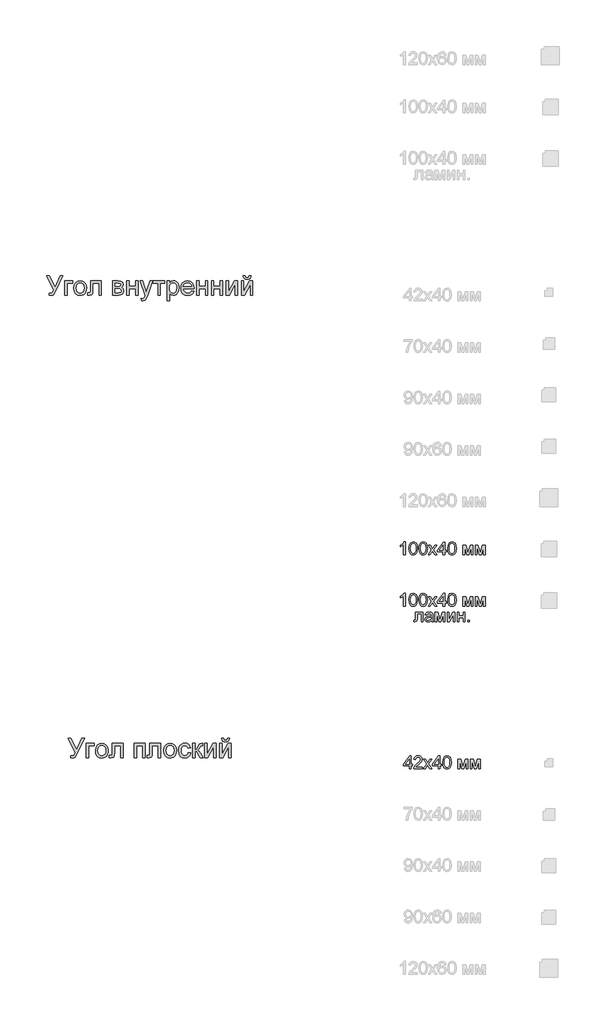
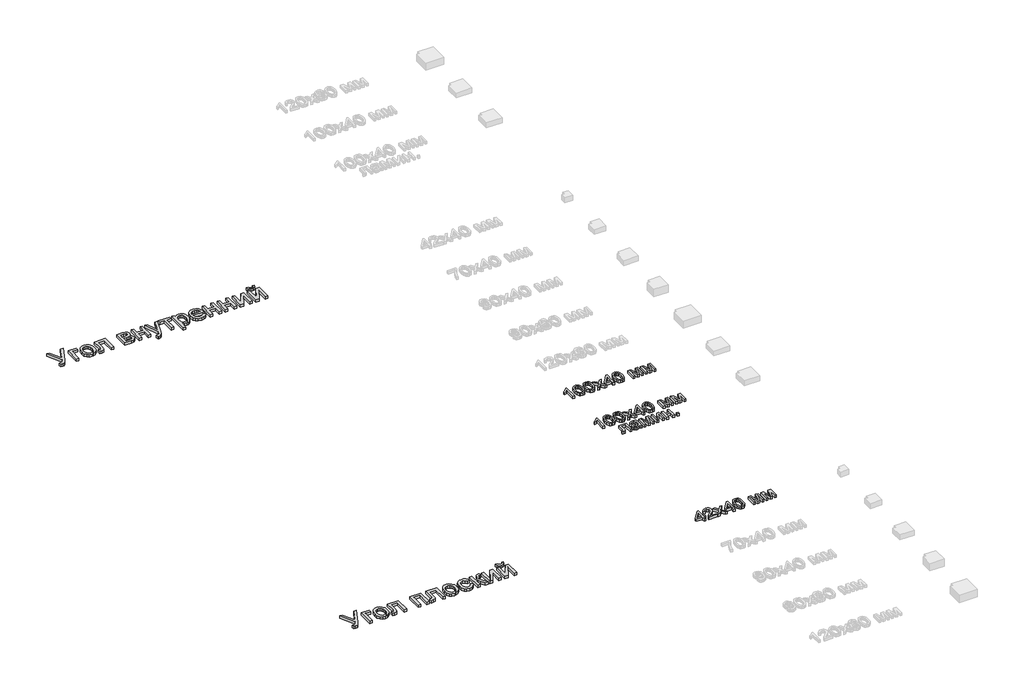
# One storey, part 11 of 21: 5 proxies.
"""IFC4 building model written with IfcOpenShell, lengths in millimetres."""

import ifcopenshell
import ifcopenshell.guid

model = None  # the IFC model being written
_history = None  # IfcOwnerHistory: only IFC2X3 demands one
_inside = {}  # id of a spatial element -> (the spatial element, [elements in it])
_under = {}  # id of a project, library or spatial element -> (it, [spatial elements below it])
_declared = {}  # id of a project -> (the project, [libraries it declares])
_typed = {}  # id of a type object -> (the type object, [elements of that type])
_made_of = {}  # id of a material, layer set ... -> (it, [elements and type objects made of it])


def new_model(schema):
    """Start an empty IFC model of exactly this schema.

    Asked for "IFC4X3", IfcOpenShell would pick the latest addendum, in which some entities
    have other attributes; the version numbers below select the first issue.
    IFC2X3 requires an IfcOwnerHistory on every rooted entity: one is made here for all.
    """
    global model, _history
    if schema == "IFC4X3":
        model = ifcopenshell.file(schema_version=(4, 3, 0, 0))
    else:
        model = ifcopenshell.file(schema=schema)
    _inside.clear()
    _under.clear()
    _declared.clear()
    _typed.clear()
    _made_of.clear()
    _history = None
    if model.schema == "IFC2X3":
        org = make("IfcOrganization", Name="unknown")
        user = make(
            "IfcPersonAndOrganization",
            ThePerson=make("IfcPerson", FamilyName="unknown"),
            TheOrganization=org,
        )
        app = make(
            "IfcApplication",
            ApplicationDeveloper=org,
            Version="unknown",
            ApplicationFullName="unknown",
            ApplicationIdentifier="unknown",
        )
        _history = make(
            "IfcOwnerHistory",
            OwningUser=user,
            OwningApplication=app,
            ChangeAction="ADDED",
            CreationDate=0,
        )
    return model


def make(cls, **values):
    """One entity of the class cls with the attributes given. An attribute that is None is left unset."""
    return model.create_entity(
        cls, **{name: value for name, value in values.items() if value is not None}
    )


def rooted(cls, **values):
    """An entity with a GlobalId (a new one), such as an element, a storey or a relation."""
    return make(cls, GlobalId=ifcopenshell.guid.new(), OwnerHistory=_history, **values)


def si_unit(unit_type, name, prefix=None):
    """IfcSIUnit, for example si_unit("LENGTHUNIT", "METRE", prefix="MILLI")."""
    return make("IfcSIUnit", UnitType=unit_type, Prefix=prefix, Name=name)


def assignment(units):
    """IfcUnitAssignment: the units of a project."""
    return None if units is None else make("IfcUnitAssignment", Units=units)


def point(xyz):
    """IfcCartesianPoint."""
    return None if xyz is None else make("IfcCartesianPoint", Coordinates=xyz)


def direction(xyz):
    """IfcDirection."""
    return None if xyz is None else make("IfcDirection", DirectionRatios=xyz)


def frame(location, z_axis=None, x_axis=None):
    """IfcAxis2Placement3D, a coordinate frame: its origin and axes. An axis left out is left unset."""
    return make(
        "IfcAxis2Placement3D",
        Location=point(location),
        Axis=direction(z_axis),
        RefDirection=direction(x_axis),
    )


def origin():
    """The frame at (0, 0, 0) with its axes left unset."""
    return frame((0.0, 0.0, 0.0))


def origin_with_axes():
    """The frame at (0, 0, 0) with the z axis (0, 0, 1) and the x axis (1, 0, 0) written out."""
    return frame((0.0, 0.0, 0.0), z_axis=(0.0, 0.0, 1.0), x_axis=(1.0, 0.0, 0.0))


def place(relative_to, where):
    """IfcLocalPlacement: puts the frame where relative to a parent placement (None: the world)."""
    return make(
        "IfcLocalPlacement", PlacementRelTo=relative_to, RelativePlacement=where
    )


def context(
    kind, dimensions, precision=None, world=None, true_north=None, identifier=None
):
    """IfcGeometricRepresentationContext, for example the 3D "Model" context."""
    return make(
        "IfcGeometricRepresentationContext",
        ContextIdentifier=identifier,
        ContextType=kind,
        CoordinateSpaceDimension=dimensions,
        Precision=precision,
        WorldCoordinateSystem=world,
        TrueNorth=true_north,
    )


def project(units=None, contexts=None):
    """IfcProject with its units and contexts."""
    return rooted(
        "IfcProject",
        Name="project",
        RepresentationContexts=contexts,
        UnitsInContext=assignment(units),
    )


def spatial(cls, under=None, at=None, **own):
    """A site, building, storey or space (cls), placed at a placement, below another one or the project."""
    s = rooted(cls, ObjectPlacement=at, **own)
    if under is not None:
        _under.setdefault(under.id(), (under, []))[1].append(s)
    return s


def polyline(points):
    """IfcPolyline through the points."""
    return make("IfcPolyline", Points=[point(p) for p in points])


def outline(outer, holes=None, kind="AREA"):
    """IfcArbitraryClosedProfileDef: a profile drawn as a closed curve; with holes, ...WithVoids."""
    if holes is None:
        return make("IfcArbitraryClosedProfileDef", ProfileType=kind, OuterCurve=outer)
    return make(
        "IfcArbitraryProfileDefWithVoids",
        ProfileType=kind,
        OuterCurve=outer,
        InnerCurves=holes,
    )


def extrude(swept, where, along, depth):
    """IfcExtrudedAreaSolid: the profile swept, set in the frame where, extruded along a direction by depth."""
    return make(
        "IfcExtrudedAreaSolid",
        SweptArea=swept,
        Position=where,
        ExtrudedDirection=direction(along),
        Depth=depth,
    )


def shape(context_of_items, identifier, shape_type, items):
    """IfcShapeRepresentation: the items that make up one representation, for example the "Body"."""
    return make(
        "IfcShapeRepresentation",
        ContextOfItems=context_of_items,
        RepresentationIdentifier=identifier,
        RepresentationType=shape_type,
        Items=items,
    )


def made_of(thing, what):
    """Note that an element or type object is made of a material, layer set ...; save() writes the relation."""
    if what is not None:
        _made_of.setdefault(what.id(), (what, []))[1].append(thing)
    return thing


def element(
    cls,
    number,
    at=None,
    inside=None,
    cuts=None,
    type_object=None,
    material=None,
    context=None,
    identifier="Body",
    shape_type=None,
    held_by="IfcProductDefinitionShape",
    body=None,
    shapes=None,
    **own,
):
    """One element of the class cls, such as IfcWall. Its Tag is "e" and its number.

    at: its placement. inside: the storey or other place that contains it. cuts: it is an
    opening in that element (IfcRelVoidsElement). A single representation is given by context,
    identifier, shape_type and body (its items); several are given by shapes. held_by: the class
    of the entity that holds the representations. save() writes the other relations.
    """
    e = rooted(cls, Tag="e%d" % number, ObjectPlacement=at, **own)
    if body is not None:
        shapes = [shape(context, identifier, shape_type, body)]
    if shapes is not None:
        e.Representation = make(held_by, Representations=shapes)
    if inside is not None:
        _inside.setdefault(inside.id(), (inside, []))[1].append(e)
    if cuts is not None:
        rooted(
            "IfcRelVoidsElement", RelatingBuildingElement=cuts, RelatedOpeningElement=e
        )
    if type_object is not None:
        _typed.setdefault(type_object.id(), (type_object, []))[1].append(e)
    return made_of(e, material)


def aggregate(whole, parts):
    """IfcRelAggregates: a whole, such as a stair, and the parts it consists of."""
    return rooted("IfcRelAggregates", RelatingObject=whole, RelatedObjects=parts)


def save(model, path):
    """Write the relations noted so far, then the file.

    IfcRelAggregates (storeys below a building ...), IfcRelContainedInSpatialStructure (elements
    in a storey), IfcRelDefinesByType, IfcRelAssociatesMaterial and IfcRelDeclares: one each for
    every whole, place, type object, material and project.
    """
    for whole, parts in _under.values():
        aggregate(whole, parts)
    for where, things in _inside.values():
        rooted(
            "IfcRelContainedInSpatialStructure",
            RelatedElements=things,
            RelatingStructure=where,
        )
    for kind, things in _typed.values():
        rooted("IfcRelDefinesByType", RelatedObjects=things, RelatingType=kind)
    for what, things in _made_of.values():
        rooted("IfcRelAssociatesMaterial", RelatedObjects=things, RelatingMaterial=what)
    for by, libraries in _declared.values():
        rooted("IfcRelDeclares", RelatingContext=by, RelatedDefinitions=libraries)
    model.write(path)


model = new_model("IFC4")

# Units and contexts
model_context = context("Model", 3, world=origin())
ifc_project = project(units=[si_unit("LENGTHUNIT", "METRE", prefix="MILLI")], contexts=[model_context])

# Site, building, storey
site = spatial("IfcSite", under=ifc_project)
building = spatial("IfcBuilding", under=site)
storey = spatial("IfcBuildingStorey", under=building, Name="Этаж 01", Elevation=0.0)

# Proxies
placement = place(None, origin())
element("IfcBuildingElementProxy", 1, Name="150 мм Arial", ObjectType="150 мм Arial", at=placement, inside=storey, context=model_context, shape_type="SweptSolid", body=[
    extrude(outline(polyline([(19964.3425456, -12002.6104933), (19985.2014547, -12002.6104933), (20030.2669992, -12091.8586654), (20070.807595, -12002.6104933), (20091.4825632, -12002.6104933), (20034.2769129, -12120.001638), (20018.7155045, -12148.8435864), (20011.3302735, -12153.9479491), (20001.3146861, -12155.6494033), (19984.3553262, -12153.2949586), (19984.3553262, -12136.8138452), (19999.1809706, -12136.8138452), (20010.1806422, -12132.6199904), (20020.3709735, -12113.5269149), (19964.3425456, -12002.6104933)])), origin_with_axes(), (0.0, 0.0, 1.0), 20.0),
    extrude(outline(polyline([(20106.7864542, -12042.6360544), (20168.0020181, -12042.6360544), (20168.0020181, -12061.4716126), (20125.6220123, -12061.4716126), (20125.6220123, -12153.2949586), (20106.7864542, -12153.2949586), (20106.7864542, -12042.6360544)])), origin_with_axes(), (0.0, 0.0, 1.0), 20.0),
    extrude(outline(polyline([(20177.4197972, -12097.9655065), (20181.4940903, -12071.2848648), (20193.7169696, -12052.5320801), (20208.8185255, -12043.3442272), (20226.8999256, -12040.2816096), (20246.6873784, -12044.0110134), (20262.4925086, -12055.1992245), (20272.8529853, -12072.9633264), (20276.3064775, -12096.4204021), (20274.7797672, -12115.4490983), (20270.1996364, -12129.9344519), (20262.6994422, -12140.7823722), (20252.4125419, -12148.8987687), (20240.1942612, -12153.9617447), (20226.8999256, -12155.6494033), (20206.8733495, -12151.9337952), (20191.0866133, -12140.7869707), (20180.8365013, -12122.6503884), (20177.4197972, -12097.9655065)]), holes=[polyline([(20196.2553554, -12097.9287183), (20198.4350562, -12114.9754502), (20204.9741587, -12127.1201546), (20214.815002, -12134.3904225), (20226.8999256, -12136.8138452), (20238.9296668, -12134.376627), (20248.7521161, -12127.0649723), (20255.2912186, -12114.7593196), (20257.4709194, -12097.3401071), (20255.277423, -12080.7900158), (20248.6969338, -12068.8108584), (20238.8606889, -12061.5405904), (20226.8999256, -12059.1171678), (20214.815002, -12061.5313934), (20204.9741587, -12068.7740702), (20198.4350562, -12080.8911834), (20196.2553554, -12097.9287183)])]), origin_with_axes(), (0.0, 0.0, 1.0), 20.0),
    extrude(outline(polyline([(20306.9142595, -12042.6360544), (20391.6742712, -12042.6360544), (20391.6742712, -12153.184594), (20372.8387131, -12153.184594), (20372.8387131, -12061.4716126), (20325.7498177, -12061.4716126), (20325.7498177, -12114.2626789), (20324.4806248, -12138.6164669), (20317.509261, -12148.8987687), (20301.0281476, -12153.2949586), (20285.7242566, -12152.3384654), (20285.7242566, -12134.4594004), (20294.1487543, -12134.4594004), (20302.6652225, -12133.3005721), (20306.0681309, -12129.6217522), (20306.9142595, -12113.1958211), (20306.9142595, -12042.6360544)])), origin_with_axes(), (0.0, 0.0, 1.0), 20.0),
    extrude(outline(polyline([(20478.7887277, -12042.6360544), (20520.2858167, -12042.6360544), (20543.0393181, -12045.1560461), (20555.8416116, -12054.3898841), (20561.1942946, -12070.4847214), (20557.956933, -12083.5629264), (20548.2080602, -12092.8887349), (20560.8632008, -12103.0974603), (20565.9031841, -12120.8477666), (20562.7118078, -12135.2043614), (20555.1242417, -12145.3119193), (20543.1128945, -12151.2991987), (20526.6501752, -12153.2949586), (20478.7887277, -12153.2949586), (20478.7887277, -12042.6360544)]), holes=[polyline([(20497.6242858, -12134.4594004), (20520.7272751, -12134.4594004), (20541.2183023, -12131.0564919), (20545.4581423, -12126.4165803), (20547.067626, -12119.3026622), (20543.8486585, -12110.234371), (20535.460949, -12104.9552644), (20518.8878651, -12103.8516184), (20497.6242858, -12103.8516184), (20497.6242858, -12134.4594004)]), polyline([(20497.6242858, -12085.0160602), (20516.2391148, -12085.0160602), (20531.5981881, -12084.0595671), (20539.0661926, -12080.2335943), (20542.3587364, -12073.3174128), (20540.9147996, -12067.6980153), (20536.5829891, -12064.0835747), (20516.827726, -12061.4716126), (20497.6242858, -12061.4716126), (20497.6242858, -12085.0160602)])]), origin_with_axes(), (0.0, 0.0, 1.0), 20.0),
    extrude(outline(polyline([(20589.4476318, -12042.6360544), (20608.28319, -12042.6360544), (20608.28319, -12085.0160602), (20657.7265301, -12085.0160602), (20657.7265301, -12042.6360544), (20676.5620883, -12042.6360544), (20676.5620883, -12153.2949586), (20657.7265301, -12153.2949586), (20657.7265301, -12103.8516184), (20608.28319, -12103.8516184), (20608.28319, -12153.2949586), (20589.4476318, -12153.2949586), (20589.4476318, -12042.6360544)])), origin_with_axes(), (0.0, 0.0, 1.0), 20.0),
    extrude(outline(polyline([(20704.8154255, -12195.6749644), (20702.4609807, -12177.538382), (20712.0259126, -12179.193851), (20720.9654451, -12177.1153177), (20726.4468868, -12171.3211763), (20731.5972348, -12157.4520251), (20733.0687627, -12152.8902884), (20693.0432017, -12042.6360544), (20712.9088294, -12042.6360544), (20734.1356205, -12104.0723476), (20741.5300486, -12128.6468649), (20748.9244767, -12106.9418272), (20770.739879, -12042.6360544), (20790.458354, -12042.6360544), (20751.9411091, -12155.9437089), (20741.9347188, -12180.5182262), (20731.0086236, -12193.7987662), (20716.330132, -12198.0294092), (20704.8154255, -12195.6749644)])), origin_with_axes(), (0.0, 0.0, 1.0), 20.0),
    extrude(outline(polyline([(20796.6387715, -12042.6360544), (20886.1076727, -12042.6360544), (20886.1076727, -12061.4716126), (20850.7910012, -12061.4716126), (20850.7910012, -12153.2949586), (20831.955443, -12153.2949586), (20831.955443, -12061.4716126), (20796.6387715, -12061.4716126), (20796.6387715, -12042.6360544)])), origin_with_axes(), (0.0, 0.0, 1.0), 20.0),
    extrude(outline(polyline([(20902.5887861, -12195.6749644), (20902.5887861, -12042.6360544), (20921.4243443, -12042.6360544), (20921.4243443, -12061.1037306), (20934.4473669, -12045.4871399), (20952.0321263, -12040.2816096), (20964.7700404, -12042.1026255), (20975.9076678, -12047.5656731), (20984.9759589, -12056.3396587), (20991.5058644, -12068.0934885), (20996.7665769, -12097.1193779), (20995.2812533, -12113.2280108), (20990.8252827, -12127.6351894), (20983.5412192, -12139.6097483), (20973.5716171, -12148.4205221), (20961.9603416, -12153.842183), (20949.7512579, -12155.6494033), (20933.362115, -12150.8117551), (20921.4243443, -12138.5796787), (20921.4243443, -12195.6749644), (20902.5887861, -12195.6749644)]), holes=[polyline([(20921.4243443, -12098.8484233), (20923.4614908, -12115.7342068), (20929.5729305, -12127.5432189), (20938.5906379, -12134.4961886), (20949.3465877, -12136.8138452), (20960.2772815, -12134.4134152), (20969.5249151, -12127.2121251), (20975.8294928, -12114.9708517), (20977.9310187, -12097.4504717), (20975.8800766, -12080.6566586), (20969.7272502, -12068.6820997), (20960.7233384, -12061.5084008), (20950.1191399, -12059.1171678), (20939.4735547, -12061.6601521), (20930.1247535, -12069.289105), (20923.5994466, -12081.7649031), (20921.4243443, -12098.8484233)])]), origin_with_axes(), (0.0, 0.0, 1.0), 20.0),
    extrude(outline(polyline([(21095.432528, -12120.3327318), (21113.9002041, -12122.6871766), (21107.2461386, -12136.602313), (21096.6281445, -12147.0041764), (21082.2853452, -12153.4880966), (21064.456864, -12155.6494033), (21042.3563531, -12151.9199996), (21025.3510079, -12140.7317884), (21014.5076861, -12122.8113367), (21010.8932455, -12098.8852115), (21014.5444743, -12074.1543443), (21025.4981607, -12055.659077), (21042.2735797, -12044.1259765), (21063.3900062, -12040.2816096), (21083.8488437, -12044.1167794), (21100.1965998, -12055.6222888), (21110.9157615, -12074.0807679), (21114.4888153, -12098.7748469), (21114.3784507, -12103.8516184), (21029.7288037, -12103.8516184), (21032.9891578, -12117.9506959), (21040.5629284, -12128.3157711), (21051.4936222, -12134.6893266), (21064.824746, -12136.8138452), (21083.2924221, -12132.8775078), (21095.432528, -12120.3327318)]), holes=[polyline([(21029.7288037, -12085.0160602), (21095.6532572, -12085.0160602), (21093.1056744, -12075.0648523), (21088.1116763, -12067.9463357), (21077.1303987, -12061.3244598), (21063.3164298, -12059.1171678), (21050.6199025, -12060.8784028), (21040.12147, -12066.162108), (21032.8236109, -12074.3980662), (21029.7288037, -12085.0160602)])]), origin_with_axes(), (0.0, 0.0, 1.0), 20.0),
    extrude(outline(polyline([(21133.3243735, -12042.6360544), (21152.1599316, -12042.6360544), (21152.1599316, -12085.0160602), (21201.6032718, -12085.0160602), (21201.6032718, -12042.6360544), (21220.43883, -12042.6360544), (21220.43883, -12153.2949586), (21201.6032718, -12153.2949586), (21201.6032718, -12103.8516184), (21152.1599316, -12103.8516184), (21152.1599316, -12153.2949586), (21133.3243735, -12153.2949586), (21133.3243735, -12042.6360544)])), origin_with_axes(), (0.0, 0.0, 1.0), 20.0),
    extrude(outline(polyline([(21248.6921672, -12042.6360544), (21267.5277253, -12042.6360544), (21267.5277253, -12085.0160602), (21316.9710655, -12085.0160602), (21316.9710655, -12042.6360544), (21335.8066236, -12042.6360544), (21335.8066236, -12153.2949586), (21316.9710655, -12153.2949586), (21316.9710655, -12103.8516184), (21267.5277253, -12103.8516184), (21267.5277253, -12153.2949586), (21248.6921672, -12153.2949586), (21248.6921672, -12042.6360544)])), origin_with_axes(), (0.0, 0.0, 1.0), 20.0),
    extrude(outline(polyline([(21364.0599609, -12042.6360544), (21382.895519, -12042.6360544), (21382.895519, -12127.0281841), (21429.175074, -12042.6360544), (21453.5288621, -12042.6360544), (21453.5288621, -12153.2949586), (21434.6933039, -12153.2949586), (21434.6933039, -12069.4178637), (21388.7080545, -12153.2949586), (21364.0599609, -12153.2949586), (21364.0599609, -12042.6360544)])), origin_with_axes(), (0.0, 0.0, 1.0), 20.0),
    extrude(outline(polyline([(21481.7821993, -12042.6360544), (21500.6177575, -12042.6360544), (21500.6177575, -12127.0281841), (21546.8973125, -12042.6360544), (21571.2511006, -12042.6360544), (21571.2511006, -12153.2949586), (21552.4155424, -12153.2949586), (21552.4155424, -12069.4178637), (21506.430293, -12153.2949586), (21481.7821993, -12153.2949586), (21481.7821993, -12042.6360544)])), origin_with_axes(), (0.0, 0.0, 1.0), 20.0),
    extrude(outline(polyline([(21542.9977633, -12002.6104933), (21557.1244319, -12002.6104933), (21554.084807, -12014.6724242), (21547.9825644, -12023.561373), (21539.0936156, -12029.0382162), (21527.6938723, -12030.8638306), (21515.3238402, -12029.0520117), (21505.7313172, -12023.6165553), (21499.1738206, -12014.7414021), (21495.9088679, -12002.6104933), (21510.0355366, -12002.6104933), (21515.3330373, -12013.2238889), (21526.0016151, -12016.7371619), (21537.7002626, -12013.3342535), (21542.9977633, -12002.6104933)])), origin_with_axes(), (0.0, 0.0, 1.0), 20.0),
])
element("IfcBuildingElementProxy", 2, Name="150 мм Arial", ObjectType="150 мм Arial", at=placement, inside=storey, context=model_context, shape_type="SweptSolid", body=[
    extrude(outline(polyline([(20132.6853466, -15602.6104933), (20153.5442557, -15602.6104933), (20198.6098001, -15691.8586654), (20239.150396, -15602.6104933), (20259.8253641, -15602.6104933), (20202.6197139, -15720.001638), (20187.0583055, -15748.8435864), (20179.6730744, -15753.9479491), (20169.6574871, -15755.6494033), (20152.6981271, -15753.2949586), (20152.6981271, -15736.8138452), (20167.5237716, -15736.8138452), (20178.5234432, -15732.6199904), (20188.7137745, -15713.5269149), (20132.6853466, -15602.6104933)])), origin_with_axes(), (0.0, 0.0, 1.0), 20.0),
    extrude(outline(polyline([(20275.1292551, -15642.6360544), (20336.3448191, -15642.6360544), (20336.3448191, -15661.4716126), (20293.9648133, -15661.4716126), (20293.9648133, -15753.2949586), (20275.1292551, -15753.2949586), (20275.1292551, -15642.6360544)])), origin_with_axes(), (0.0, 0.0, 1.0), 20.0),
    extrude(outline(polyline([(20345.7625982, -15697.9655065), (20349.8368913, -15671.2848648), (20362.0597706, -15652.5320801), (20377.1613265, -15643.3442272), (20395.2427266, -15640.2816096), (20415.0301794, -15644.0110134), (20430.8353096, -15655.1992245), (20441.1957863, -15672.9633264), (20444.6492785, -15696.4204021), (20443.1225682, -15715.4490983), (20438.5424374, -15729.9344519), (20431.0422432, -15740.7823722), (20420.7553429, -15748.8987687), (20408.5370622, -15753.9617447), (20395.2427266, -15755.6494033), (20375.2161505, -15751.9337952), (20359.4294143, -15740.7869707), (20349.1793022, -15722.6503884), (20345.7625982, -15697.9655065)]), holes=[polyline([(20364.5981564, -15697.9287183), (20366.7778572, -15714.9754502), (20373.3169597, -15727.1201546), (20383.157803, -15734.3904225), (20395.2427266, -15736.8138452), (20407.2724678, -15734.376627), (20417.0949171, -15727.0649723), (20423.6340195, -15714.7593196), (20425.8137204, -15697.3401071), (20423.620224, -15680.7900158), (20417.0397348, -15668.8108584), (20407.2034899, -15661.5405904), (20395.2427266, -15659.1171678), (20383.157803, -15661.5313934), (20373.3169597, -15668.7740702), (20366.7778572, -15680.8911834), (20364.5981564, -15697.9287183)])]), origin_with_axes(), (0.0, 0.0, 1.0), 20.0),
    extrude(outline(polyline([(20475.2570605, -15642.6360544), (20560.0170722, -15642.6360544), (20560.0170722, -15753.184594), (20541.1815141, -15753.184594), (20541.1815141, -15661.4716126), (20494.0926187, -15661.4716126), (20494.0926187, -15714.2626789), (20492.8234258, -15738.6164669), (20485.852062, -15748.8987687), (20469.3709486, -15753.2949586), (20454.0670576, -15752.3384654), (20454.0670576, -15734.4594004), (20462.4915553, -15734.4594004), (20471.0080235, -15733.3005721), (20474.4109319, -15729.6217522), (20475.2570605, -15713.1958211), (20475.2570605, -15642.6360544)])), origin_with_axes(), (0.0, 0.0, 1.0), 20.0),
    extrude(outline(polyline([(20647.1315287, -15642.6360544), (20731.8915404, -15642.6360544), (20731.8915404, -15753.2949586), (20713.0559822, -15753.2949586), (20713.0559822, -15661.4716126), (20665.9670868, -15661.4716126), (20665.9670868, -15753.2949586), (20647.1315287, -15753.2949586), (20647.1315287, -15642.6360544)])), origin_with_axes(), (0.0, 0.0, 1.0), 20.0),
    extrude(outline(polyline([(20769.5626567, -15642.6360544), (20854.3226684, -15642.6360544), (20854.3226684, -15753.184594), (20835.4871102, -15753.184594), (20835.4871102, -15661.4716126), (20788.3982148, -15661.4716126), (20788.3982148, -15714.2626789), (20787.1290219, -15738.6164669), (20780.1576581, -15748.8987687), (20763.6765447, -15753.2949586), (20748.3726537, -15752.3384654), (20748.3726537, -15734.4594004), (20756.7971514, -15734.4594004), (20765.3136196, -15733.3005721), (20768.7165281, -15729.6217522), (20769.5626567, -15713.1958211), (20769.5626567, -15642.6360544)])), origin_with_axes(), (0.0, 0.0, 1.0), 20.0),
    extrude(outline(polyline([(20877.867116, -15697.9655065), (20881.9414091, -15671.2848648), (20894.1642884, -15652.5320801), (20909.2658443, -15643.3442272), (20927.3472444, -15640.2816096), (20947.1346972, -15644.0110134), (20962.9398274, -15655.1992245), (20973.3003041, -15672.9633264), (20976.7537963, -15696.4204021), (20975.2270861, -15715.4490983), (20970.6469552, -15729.9344519), (20963.146761, -15740.7823722), (20952.8598608, -15748.8987687), (20940.64158, -15753.9617447), (20927.3472444, -15755.6494033), (20907.3206683, -15751.9337952), (20891.5339322, -15740.7869707), (20881.2838201, -15722.6503884), (20877.867116, -15697.9655065)]), holes=[polyline([(20896.7026742, -15697.9287183), (20898.882375, -15714.9754502), (20905.4214775, -15727.1201546), (20915.2623209, -15734.3904225), (20927.3472444, -15736.8138452), (20939.3769856, -15734.376627), (20949.1994349, -15727.0649723), (20955.7385374, -15714.7593196), (20957.9182382, -15697.3401071), (20955.7247418, -15680.7900158), (20949.1442526, -15668.8108584), (20939.3080078, -15661.5405904), (20927.3472444, -15659.1171678), (20915.2623209, -15661.5313934), (20905.4214775, -15668.7740702), (20898.882375, -15680.8911834), (20896.7026742, -15697.9287183)])]), origin_with_axes(), (0.0, 0.0, 1.0), 20.0),
    extrude(outline(polyline([(21068.5771423, -15713.2693975), (21087.4127005, -15715.6238422), (21082.161185, -15732.3762686), (21072.2927505, -15745.0360078), (21058.736299, -15752.9960544), (21042.4207325, -15755.6494033), (21022.3849593, -15751.9475907), (21006.7177849, -15740.842153), (20996.6056285, -15722.8205338), (20993.2349097, -15698.3701767), (20994.674248, -15681.6085533), (20998.992263, -15667.081813), (21006.2579324, -15655.3509759), (21016.5402341, -15646.9770619), (21028.8412883, -15641.9554727), (21042.1632151, -15640.2816096), (21058.0787099, -15642.5808721), (21070.8028284, -15649.4786595), (21079.9309004, -15660.6070899), (21085.0582557, -15675.5982812), (21066.2226976, -15677.9527259), (21057.4855002, -15663.8444514), (21042.3103679, -15659.1171678), (21030.1380724, -15661.4440214), (21020.4765715, -15668.4245823), (21014.1719938, -15680.4359294), (21012.0704679, -15697.8551419), (21014.1260085, -15715.5088791), (21020.2926305, -15727.561613), (21029.7793874, -15734.5007871), (21041.7953331, -15736.8138452), (21051.5488045, -15735.3699083), (21059.5456394, -15731.0380978), (21065.3627734, -15723.7080491), (21068.5771423, -15713.2693975)])), origin_with_axes(), (0.0, 0.0, 1.0), 20.0),
    extrude(outline(polyline([(21103.8938139, -15642.6360544), (21122.729372, -15642.6360544), (21122.729372, -15689.7249498), (21135.3477245, -15686.3404354), (21145.6852085, -15666.6219605), (21154.2752531, -15649.6074182), (21161.8536222, -15644.0707942), (21175.6308029, -15642.6360544), (21179.2360465, -15642.6360544), (21179.2360465, -15661.5819772), (21174.159275, -15661.4716126), (21164.9622251, -15663.4581753), (21158.487502, -15675.8557986), (21150.8907388, -15689.2650973), (21140.240555, -15695.8317909), (21152.1231434, -15703.1618397), (21163.7850027, -15718.6036864), (21183.944936, -15753.2949586), (21162.5342039, -15753.2949586), (21142.7789408, -15719.3394504), (21132.8461269, -15704.9736585), (21122.729372, -15701.4971736), (21122.729372, -15753.2949586), (21103.8938139, -15753.2949586), (21103.8938139, -15642.6360544)])), origin_with_axes(), (0.0, 0.0, 1.0), 20.0),
    extrude(outline(polyline([(21195.7171599, -15642.6360544), (21214.552718, -15642.6360544), (21214.552718, -15727.0281841), (21260.832273, -15642.6360544), (21285.1860611, -15642.6360544), (21285.1860611, -15753.2949586), (21266.3505029, -15753.2949586), (21266.3505029, -15669.4178637), (21220.3652536, -15753.2949586), (21195.7171599, -15753.2949586), (21195.7171599, -15642.6360544)])), origin_with_axes(), (0.0, 0.0, 1.0), 20.0),
    extrude(outline(polyline([(21313.4393983, -15642.6360544), (21332.2749565, -15642.6360544), (21332.2749565, -15727.0281841), (21378.5545115, -15642.6360544), (21402.9082996, -15642.6360544), (21402.9082996, -15753.2949586), (21384.0727414, -15753.2949586), (21384.0727414, -15669.4178637), (21338.087492, -15753.2949586), (21313.4393983, -15753.2949586), (21313.4393983, -15642.6360544)])), origin_with_axes(), (0.0, 0.0, 1.0), 20.0),
    extrude(outline(polyline([(21374.6549623, -15602.6104933), (21388.7816309, -15602.6104933), (21385.742006, -15614.6724242), (21379.6397634, -15623.561373), (21370.7508147, -15629.0382162), (21359.3510713, -15630.8638306), (21346.9810392, -15629.0520117), (21337.3885162, -15623.6165553), (21330.8310197, -15614.7414021), (21327.5660669, -15602.6104933), (21341.6927356, -15602.6104933), (21346.9902363, -15613.2238889), (21357.6588142, -15616.7371619), (21369.3574616, -15613.3342535), (21374.6549623, -15602.6104933)])), origin_with_axes(), (0.0, 0.0, 1.0), 20.0),
])
element("IfcBuildingElementProxy", 3, Name="100 мм Arial", ObjectType="100 мм Arial", at=placement, inside=storey, context=model_context, shape_type="SweptSolid", body=[
    extrude(outline(polyline([(22758.4927799, -14173.4621169), (22745.9357412, -14173.4621169), (22745.9357412, -14095.1768283), (22734.04089, -14103.6503769), (22720.8216636, -14109.99021), (22720.8216636, -14098.1198843), (22739.2280261, -14086.3721859), (22750.399376, -14073.0058067), (22758.4927799, -14073.0058067), (22758.4927799, -14173.4621169)])), origin_with_axes(), (0.0, 0.0, 1.0), 20.0),
    extrude(outline(polyline([(22788.315747, -14124.0433022), (22792.0068297, -14095.1400401), (22802.9697131, -14078.4749857), (22821.2779738, -14073.0058067), (22835.9442026, -14076.2431683), (22846.0732202, -14085.5751082), (22851.9593322, -14100.4375408), (22854.2402005, -14124.0433022), (22850.585906, -14152.8239369), (22839.6598108, -14169.5257795), (22831.4284511, -14173.6552549), (22821.2779738, -14175.0317467), (22808.2304257, -14172.6405137), (22798.3221373, -14165.4668148), (22790.8173446, -14148.476798), (22788.315747, -14124.0433022)]), holes=[polyline([(22800.8727858, -14124.0187767), (22802.3443137, -14143.7709742), (22806.7588977, -14155.2029072), (22813.3317227, -14160.6567578), (22821.2779738, -14162.4747079), (22829.2242249, -14160.6506264), (22835.7970498, -14155.1783817), (22840.2116338, -14143.7403173), (22841.6831618, -14124.0187767), (22840.2606847, -14104.7111033), (22835.9932536, -14093.1902655), (22829.4326913, -14087.4697005), (22821.130821, -14085.5628455), (22813.270409, -14087.2428399), (22806.9551014, -14092.2828233), (22802.3933647, -14104.521031), (22800.8727858, -14124.0187767)])]), origin_with_axes(), (0.0, 0.0, 1.0), 20.0),
    extrude(outline(polyline([(22865.2276095, -14124.0433022), (22868.9186921, -14095.1400401), (22879.8815756, -14078.4749857), (22898.1898362, -14073.0058067), (22912.8560651, -14076.2431683), (22922.9850827, -14085.5751082), (22928.8711946, -14100.4375408), (22931.152063, -14124.0433022), (22927.4977685, -14152.8239369), (22916.5716732, -14169.5257795), (22908.3403136, -14173.6552549), (22898.1898362, -14175.0317467), (22885.1422881, -14172.6405137), (22875.2339997, -14165.4668148), (22867.729207, -14148.476798), (22865.2276095, -14124.0433022)]), holes=[polyline([(22877.7846482, -14124.0187767), (22879.2561762, -14143.7709742), (22883.6707601, -14155.2029072), (22890.2435851, -14160.6567578), (22898.1898362, -14162.4747079), (22906.1360873, -14160.6506264), (22912.7089123, -14155.1783817), (22917.1234962, -14143.7403173), (22918.5950242, -14124.0187767), (22917.1725472, -14104.7111033), (22912.905116, -14093.1902655), (22906.3445538, -14087.4697005), (22898.0426834, -14085.5628455), (22890.1822715, -14087.2428399), (22883.8669639, -14092.2828233), (22879.3052271, -14104.521031), (22877.7846482, -14124.0187767)])]), origin_with_axes(), (0.0, 0.0, 1.0), 20.0),
    extrude(outline(polyline([(22937.4305824, -14173.4621169), (22964.2614426, -14136.3796118), (22939.0002122, -14099.6895141), (22954.1078995, -14099.6895141), (22966.2970563, -14117.3478499), (22971.9869645, -14125.6865084), (22976.9165832, -14118.8684288), (22990.7979971, -14099.6895141), (23005.9056844, -14099.6895141), (22979.3691298, -14136.3796118), (23004.9246658, -14173.4621169), (22989.8169785, -14173.4621169), (22974.4395111, -14151.168468), (22971.6190825, -14147.0972405), (22952.5382696, -14173.4621169), (22937.4305824, -14173.4621169)])), origin_with_axes(), (0.0, 0.0, 1.0), 20.0),
    extrude(outline(polyline([(23053.583191, -14173.4621169), (23053.583191, -14149.9176692), (23008.0639254, -14149.9176692), (23008.0639254, -14137.3606304), (23056.7224507, -14074.5754366), (23066.1402298, -14074.5754366), (23066.1402298, -14137.3606304), (23078.6972685, -14137.3606304), (23078.6972685, -14149.9176692), (23066.1402298, -14149.9176692), (23066.1402298, -14173.4621169), (23053.583191, -14173.4621169)]), holes=[polyline([(23053.583191, -14137.3606304), (23053.583191, -14098.5613426), (23023.5149692, -14137.3606304), (23053.583191, -14137.3606304)])]), origin_with_axes(), (0.0, 0.0, 1.0), 20.0),
    extrude(outline(polyline([(23089.6846774, -14124.0433022), (23093.3757601, -14095.1400401), (23104.3386436, -14078.4749857), (23122.6469042, -14073.0058067), (23137.3131331, -14076.2431683), (23147.4421507, -14085.5751082), (23153.3282626, -14100.4375408), (23155.609131, -14124.0433022), (23151.9548365, -14152.8239369), (23141.0287412, -14169.5257795), (23132.7973816, -14173.6552549), (23122.6469042, -14175.0317467), (23109.5993561, -14172.6405137), (23099.6910677, -14165.4668148), (23092.186275, -14148.476798), (23089.6846774, -14124.0433022)]), holes=[polyline([(23102.2417162, -14124.0187767), (23103.7132442, -14143.7709742), (23108.1278281, -14155.2029072), (23114.7006531, -14160.6567578), (23122.6469042, -14162.4747079), (23130.5931553, -14160.6506264), (23137.1659803, -14155.1783817), (23141.5805642, -14143.7403173), (23143.0520922, -14124.0187767), (23141.6296152, -14104.7111033), (23137.362184, -14093.1902655), (23130.8016218, -14087.4697005), (23122.4997514, -14085.5628455), (23114.6393395, -14087.2428399), (23108.3240319, -14092.2828233), (23103.7622951, -14104.521031), (23102.2417162, -14124.0187767)])]), origin_with_axes(), (0.0, 0.0, 1.0), 20.0),
    extrude(outline(polyline([(23208.9765457, -14099.6895141), (23230.5834816, -14099.6895141), (23247.2362732, -14158.7468371), (23265.1889146, -14099.6895141), (23285.8884082, -14099.6895141), (23285.8884082, -14173.4621169), (23273.3313694, -14173.4621169), (23273.3313694, -14114.0614374), (23255.2806262, -14173.4621169), (23238.7995128, -14173.4621169), (23221.5335845, -14111.2164833), (23221.5335845, -14173.4621169), (23208.9765457, -14173.4621169), (23208.9765457, -14099.6895141)])), origin_with_axes(), (0.0, 0.0, 1.0), 20.0),
    extrude(outline(polyline([(23304.7239664, -14099.6895141), (23326.3309022, -14099.6895141), (23342.9836939, -14158.7468371), (23360.9363352, -14099.6895141), (23381.6358288, -14099.6895141), (23381.6358288, -14173.4621169), (23369.07879, -14173.4621169), (23369.07879, -14114.0614374), (23351.0280468, -14173.4621169), (23334.5469334, -14173.4621169), (23317.2810051, -14111.2164833), (23317.2810051, -14173.4621169), (23304.7239664, -14173.4621169), (23304.7239664, -14099.6895141)])), origin_with_axes(), (0.0, 0.0, 1.0), 20.0),
])
element("IfcBuildingElementProxy", 4, Name="100 мм Arial", ObjectType="100 мм Arial", at=placement, inside=storey, context=model_context, shape_type="SweptSolid", body=[
    extrude(outline(polyline([(22758.4927799, -14573.4621169), (22745.9357412, -14573.4621169), (22745.9357412, -14495.1768283), (22734.04089, -14503.6503769), (22720.8216636, -14509.99021), (22720.8216636, -14498.1198843), (22739.2280261, -14486.3721859), (22750.399376, -14473.0058067), (22758.4927799, -14473.0058067), (22758.4927799, -14573.4621169)])), origin_with_axes(), (0.0, 0.0, 1.0), 20.0),
    extrude(outline(polyline([(22788.315747, -14524.0433022), (22792.0068297, -14495.1400401), (22802.9697131, -14478.4749857), (22821.2779738, -14473.0058067), (22835.9442026, -14476.2431683), (22846.0732202, -14485.5751082), (22851.9593322, -14500.4375408), (22854.2402005, -14524.0433022), (22850.585906, -14552.8239369), (22839.6598108, -14569.5257795), (22831.4284511, -14573.6552549), (22821.2779738, -14575.0317467), (22808.2304257, -14572.6405137), (22798.3221373, -14565.4668148), (22790.8173446, -14548.476798), (22788.315747, -14524.0433022)]), holes=[polyline([(22800.8727858, -14524.0187767), (22802.3443137, -14543.7709742), (22806.7588977, -14555.2029072), (22813.3317227, -14560.6567578), (22821.2779738, -14562.4747079), (22829.2242249, -14560.6506264), (22835.7970498, -14555.1783817), (22840.2116338, -14543.7403173), (22841.6831618, -14524.0187767), (22840.2606847, -14504.7111033), (22835.9932536, -14493.1902655), (22829.4326913, -14487.4697005), (22821.130821, -14485.5628455), (22813.270409, -14487.2428399), (22806.9551014, -14492.2828233), (22802.3933647, -14504.521031), (22800.8727858, -14524.0187767)])]), origin_with_axes(), (0.0, 0.0, 1.0), 20.0),
    extrude(outline(polyline([(22865.2276095, -14524.0433022), (22868.9186921, -14495.1400401), (22879.8815756, -14478.4749857), (22898.1898362, -14473.0058067), (22912.8560651, -14476.2431683), (22922.9850827, -14485.5751082), (22928.8711946, -14500.4375408), (22931.152063, -14524.0433022), (22927.4977685, -14552.8239369), (22916.5716732, -14569.5257795), (22908.3403136, -14573.6552549), (22898.1898362, -14575.0317467), (22885.1422881, -14572.6405137), (22875.2339997, -14565.4668148), (22867.729207, -14548.476798), (22865.2276095, -14524.0433022)]), holes=[polyline([(22877.7846482, -14524.0187767), (22879.2561762, -14543.7709742), (22883.6707601, -14555.2029072), (22890.2435851, -14560.6567578), (22898.1898362, -14562.4747079), (22906.1360873, -14560.6506264), (22912.7089123, -14555.1783817), (22917.1234962, -14543.7403173), (22918.5950242, -14524.0187767), (22917.1725472, -14504.7111033), (22912.905116, -14493.1902655), (22906.3445538, -14487.4697005), (22898.0426834, -14485.5628455), (22890.1822715, -14487.2428399), (22883.8669639, -14492.2828233), (22879.3052271, -14504.521031), (22877.7846482, -14524.0187767)])]), origin_with_axes(), (0.0, 0.0, 1.0), 20.0),
    extrude(outline(polyline([(22937.4305824, -14573.4621169), (22964.2614426, -14536.3796118), (22939.0002122, -14499.6895141), (22954.1078995, -14499.6895141), (22966.2970563, -14517.3478499), (22971.9869645, -14525.6865084), (22976.9165832, -14518.8684288), (22990.7979971, -14499.6895141), (23005.9056844, -14499.6895141), (22979.3691298, -14536.3796118), (23004.9246658, -14573.4621169), (22989.8169785, -14573.4621169), (22974.4395111, -14551.168468), (22971.6190825, -14547.0972405), (22952.5382696, -14573.4621169), (22937.4305824, -14573.4621169)])), origin_with_axes(), (0.0, 0.0, 1.0), 20.0),
    extrude(outline(polyline([(23053.583191, -14573.4621169), (23053.583191, -14549.9176692), (23008.0639254, -14549.9176692), (23008.0639254, -14537.3606304), (23056.7224507, -14474.5754366), (23066.1402298, -14474.5754366), (23066.1402298, -14537.3606304), (23078.6972685, -14537.3606304), (23078.6972685, -14549.9176692), (23066.1402298, -14549.9176692), (23066.1402298, -14573.4621169), (23053.583191, -14573.4621169)]), holes=[polyline([(23053.583191, -14537.3606304), (23053.583191, -14498.5613426), (23023.5149692, -14537.3606304), (23053.583191, -14537.3606304)])]), origin_with_axes(), (0.0, 0.0, 1.0), 20.0),
    extrude(outline(polyline([(23089.6846774, -14524.0433022), (23093.3757601, -14495.1400401), (23104.3386436, -14478.4749857), (23122.6469042, -14473.0058067), (23137.3131331, -14476.2431683), (23147.4421507, -14485.5751082), (23153.3282626, -14500.4375408), (23155.609131, -14524.0433022), (23151.9548365, -14552.8239369), (23141.0287412, -14569.5257795), (23132.7973816, -14573.6552549), (23122.6469042, -14575.0317467), (23109.5993561, -14572.6405137), (23099.6910677, -14565.4668148), (23092.186275, -14548.476798), (23089.6846774, -14524.0433022)]), holes=[polyline([(23102.2417162, -14524.0187767), (23103.7132442, -14543.7709742), (23108.1278281, -14555.2029072), (23114.7006531, -14560.6567578), (23122.6469042, -14562.4747079), (23130.5931553, -14560.6506264), (23137.1659803, -14555.1783817), (23141.5805642, -14543.7403173), (23143.0520922, -14524.0187767), (23141.6296152, -14504.7111033), (23137.362184, -14493.1902655), (23130.8016218, -14487.4697005), (23122.4997514, -14485.5628455), (23114.6393395, -14487.2428399), (23108.3240319, -14492.2828233), (23103.7622951, -14504.521031), (23102.2417162, -14524.0187767)])]), origin_with_axes(), (0.0, 0.0, 1.0), 20.0),
    extrude(outline(polyline([(23208.9765457, -14499.6895141), (23230.5834816, -14499.6895141), (23247.2362732, -14558.7468371), (23265.1889146, -14499.6895141), (23285.8884082, -14499.6895141), (23285.8884082, -14573.4621169), (23273.3313694, -14573.4621169), (23273.3313694, -14514.0614374), (23255.2806262, -14573.4621169), (23238.7995128, -14573.4621169), (23221.5335845, -14511.2164833), (23221.5335845, -14573.4621169), (23208.9765457, -14573.4621169), (23208.9765457, -14499.6895141)])), origin_with_axes(), (0.0, 0.0, 1.0), 20.0),
    extrude(outline(polyline([(23304.7239664, -14499.6895141), (23326.3309022, -14499.6895141), (23342.9836939, -14558.7468371), (23360.9363352, -14499.6895141), (23381.6358288, -14499.6895141), (23381.6358288, -14573.4621169), (23369.07879, -14573.4621169), (23369.07879, -14514.0614374), (23351.0280468, -14573.4621169), (23334.5469334, -14573.4621169), (23317.2810051, -14511.2164833), (23317.2810051, -14573.4621169), (23304.7239664, -14573.4621169), (23304.7239664, -14499.6895141)])), origin_with_axes(), (0.0, 0.0, 1.0), 20.0),
    extrude(outline(polyline([(22839.328717, -14621.6643319), (22895.8353915, -14621.6643319), (22895.8353915, -14695.3633583), (22883.2783527, -14695.3633583), (22883.2783527, -14634.2213707), (22851.8857558, -14634.2213707), (22851.8857558, -14669.4154149), (22851.0396272, -14685.6512736), (22846.3920513, -14692.5061415), (22835.4046424, -14695.4369347), (22825.2020484, -14694.7992726), (22825.2020484, -14682.8798959), (22830.8183802, -14682.8798959), (22836.4960256, -14682.1073438), (22838.7646313, -14679.6547971), (22839.328717, -14668.7041764), (22839.328717, -14621.6643319)])), origin_with_axes(), (0.0, 0.0, 1.0), 20.0),
    extrude(outline(polyline([(22961.759845, -14686.0191556), (22949.5829509, -14694.5294925), (22936.1307327, -14697.0065646), (22925.6368987, -14695.5166425), (22917.8960484, -14691.0468762), (22913.1227795, -14684.2594534), (22911.5316899, -14675.8165616), (22913.9351856, -14665.8837478), (22920.2504932, -14658.6732607), (22929.0428729, -14654.5529823), (22939.9076545, -14652.6645214), (22961.6862686, -14648.3480393), (22961.759845, -14645.5521362), (22958.3017542, -14636.2815099), (22944.4203403, -14632.6517409), (22931.7161487, -14635.0674993), (22925.6583585, -14643.6391498), (22913.1013198, -14642.0695199), (22918.5337106, -14629.8067868), (22929.4720685, -14622.6208251), (22946.0390211, -14620.0947021), (22961.2570729, -14622.3265195), (22969.8532489, -14627.9305886), (22973.7037471, -14636.4531882), (22974.3168838, -14647.4405971), (22974.3168838, -14663.0633191), (22974.9545459, -14684.8787215), (22977.4561434, -14695.4369347), (22964.8991047, -14695.4369347), (22961.759845, -14686.0191556)]), holes=[polyline([(22961.759845, -14660.9050781), (22941.5018098, -14664.7555763), (22930.6983419, -14666.79119), (22925.8055113, -14670.102128), (22924.0887287, -14674.9336448), (22927.8288623, -14681.727199), (22938.8040085, -14684.4495258), (22951.5082001, -14681.4451562), (22959.6997058, -14674.1733554), (22961.6862686, -14664.4612707), (22961.759845, -14660.9050781)])]), origin_with_axes(), (0.0, 0.0, 1.0), 20.0),
    extrude(outline(polyline([(22991.5828121, -14621.6643319), (23013.1897479, -14621.6643319), (23029.8425396, -14680.7216549), (23047.7951809, -14621.6643319), (23068.4946745, -14621.6643319), (23068.4946745, -14695.4369347), (23055.9376358, -14695.4369347), (23055.9376358, -14636.0362552), (23037.8868925, -14695.4369347), (23021.4057791, -14695.4369347), (23004.1398508, -14633.1913011), (23004.1398508, -14695.4369347), (22991.5828121, -14695.4369347), (22991.5828121, -14621.6643319)])), origin_with_axes(), (0.0, 0.0, 1.0), 20.0),
    extrude(outline(polyline([(23087.3302327, -14621.6643319), (23099.8872714, -14621.6643319), (23099.8872714, -14677.9257517), (23130.7403081, -14621.6643319), (23146.9761668, -14621.6643319), (23146.9761668, -14695.4369347), (23134.4191281, -14695.4369347), (23134.4191281, -14639.5188714), (23103.7622951, -14695.4369347), (23087.3302327, -14695.4369347), (23087.3302327, -14621.6643319)])), origin_with_axes(), (0.0, 0.0, 1.0), 20.0),
    extrude(outline(polyline([(23165.811725, -14621.6643319), (23178.3687637, -14621.6643319), (23178.3687637, -14649.9176692), (23211.3309905, -14649.9176692), (23211.3309905, -14621.6643319), (23223.8880293, -14621.6643319), (23223.8880293, -14695.4369347), (23211.3309905, -14695.4369347), (23211.3309905, -14662.4747079), (23178.3687637, -14662.4747079), (23178.3687637, -14695.4369347), (23165.811725, -14695.4369347), (23165.811725, -14621.6643319)])), origin_with_axes(), (0.0, 0.0, 1.0), 20.0),
    extrude(outline(polyline([(23245.8628471, -14695.4369347), (23245.8628471, -14682.8798959), (23258.4198859, -14682.8798959), (23258.4198859, -14695.4369347), (23245.8628471, -14695.4369347)])), origin_with_axes(), (0.0, 0.0, 1.0), 20.0),
])
element("IfcBuildingElementProxy", 5, Name="100 мм Arial", ObjectType="100 мм Arial", at=placement, inside=storey, context=model_context, shape_type="SweptSolid", body=[
    extrude(outline(polyline([(22790.6701918, -15838.4621169), (22790.6701918, -15814.9176692), (22745.1509262, -15814.9176692), (22745.1509262, -15802.3606304), (22793.8094515, -15739.5754366), (22803.2272305, -15739.5754366), (22803.2272305, -15802.3606304), (22815.7842693, -15802.3606304), (22815.7842693, -15814.9176692), (22803.2272305, -15814.9176692), (22803.2272305, -15838.4621169), (22790.6701918, -15838.4621169)]), holes=[polyline([(22790.6701918, -15802.3606304), (22790.6701918, -15763.5613426), (22760.60197, -15802.3606304), (22790.6701918, -15802.3606304)])]), origin_with_axes(), (0.0, 0.0, 1.0), 20.0),
    extrude(outline(polyline([(22891.1265019, -15825.9050781), (22891.1265019, -15838.4621169), (22825.2020484, -15838.4621169), (22826.550949, -15829.8046272), (22834.1783691, -15816.4750363), (22849.899193, -15801.919172), (22871.5797052, -15780.9989492), (22876.9998333, -15766.7741787), (22871.8862736, -15755.2594723), (22858.5321571, -15750.5628455), (22844.613955, -15755.1491077), (22839.328717, -15767.8287738), (22826.7716782, -15766.2591439), (22829.8159017, -15754.1129067), (22836.3979238, -15745.2408193), (22846.1743878, -15739.8145599), (22858.8019373, -15738.0058067), (22871.5214573, -15740.016895), (22881.2795272, -15746.0501597), (22887.4875358, -15755.0632686), (22889.5568721, -15766.0138893), (22887.3250546, -15777.9210032), (22879.9061011, -15790.2327873), (22861.9166715, -15807.4374019), (22847.4711718, -15819.5161941), (22841.8057891, -15825.9050781), (22891.1265019, -15825.9050781)])), origin_with_axes(), (0.0, 0.0, 1.0), 20.0),
    extrude(outline(polyline([(22898.9746511, -15838.4621169), (22925.8055113, -15801.3796118), (22900.544281, -15764.6895141), (22915.6519683, -15764.6895141), (22927.841125, -15782.3478499), (22933.5310332, -15790.6865084), (22938.460652, -15783.8684288), (22952.3420659, -15764.6895141), (22967.4497532, -15764.6895141), (22940.9131986, -15801.3796118), (22966.4687345, -15838.4621169), (22951.3610473, -15838.4621169), (22935.9835799, -15816.168468), (22933.1631512, -15812.0972405), (22914.0823384, -15838.4621169), (22898.9746511, -15838.4621169)])), origin_with_axes(), (0.0, 0.0, 1.0), 20.0),
    extrude(outline(polyline([(23015.1272598, -15838.4621169), (23015.1272598, -15814.9176692), (22969.6079942, -15814.9176692), (22969.6079942, -15802.3606304), (23018.2665194, -15739.5754366), (23027.6842985, -15739.5754366), (23027.6842985, -15802.3606304), (23040.2413373, -15802.3606304), (23040.2413373, -15814.9176692), (23027.6842985, -15814.9176692), (23027.6842985, -15838.4621169), (23015.1272598, -15838.4621169)]), holes=[polyline([(23015.1272598, -15802.3606304), (23015.1272598, -15763.5613426), (22985.059038, -15802.3606304), (23015.1272598, -15802.3606304)])]), origin_with_axes(), (0.0, 0.0, 1.0), 20.0),
    extrude(outline(polyline([(23051.2287462, -15789.0433022), (23054.9198289, -15760.1400401), (23065.8827124, -15743.4749857), (23084.190973, -15738.0058067), (23098.8572019, -15741.2431683), (23108.9862195, -15750.5751082), (23114.8723314, -15765.4375408), (23117.1531998, -15789.0433022), (23113.4989053, -15817.8239369), (23102.57281, -15834.5257795), (23094.3414504, -15838.6552549), (23084.190973, -15840.0317467), (23071.1434249, -15837.6405137), (23061.2351365, -15830.4668148), (23053.7303438, -15813.476798), (23051.2287462, -15789.0433022)]), holes=[polyline([(23063.785785, -15789.0187767), (23065.257313, -15808.7709742), (23069.6718969, -15820.2029072), (23076.2447219, -15825.6567578), (23084.190973, -15827.4747079), (23092.1372241, -15825.6506264), (23098.7100491, -15820.1783817), (23103.124633, -15808.7403173), (23104.596161, -15789.0187767), (23103.1736839, -15769.7111033), (23098.9062528, -15758.1902655), (23092.3456905, -15752.4697005), (23084.0438202, -15750.5628455), (23076.1834082, -15752.2428399), (23069.8681006, -15757.2828233), (23065.3063639, -15769.521031), (23063.785785, -15789.0187767)])]), origin_with_axes(), (0.0, 0.0, 1.0), 20.0),
    extrude(outline(polyline([(23170.5206145, -15764.6895141), (23192.1275504, -15764.6895141), (23208.780342, -15823.7468371), (23226.7329834, -15764.6895141), (23247.432477, -15764.6895141), (23247.432477, -15838.4621169), (23234.8754382, -15838.4621169), (23234.8754382, -15779.0614374), (23216.824695, -15838.4621169), (23200.3435816, -15838.4621169), (23183.0776533, -15776.2164833), (23183.0776533, -15838.4621169), (23170.5206145, -15838.4621169), (23170.5206145, -15764.6895141)])), origin_with_axes(), (0.0, 0.0, 1.0), 20.0),
    extrude(outline(polyline([(23266.2680351, -15764.6895141), (23287.874971, -15764.6895141), (23304.5277626, -15823.7468371), (23322.480404, -15764.6895141), (23343.1798976, -15764.6895141), (23343.1798976, -15838.4621169), (23330.6228588, -15838.4621169), (23330.6228588, -15779.0614374), (23312.5721156, -15838.4621169), (23296.0910022, -15838.4621169), (23278.8250739, -15776.2164833), (23278.8250739, -15838.4621169), (23266.2680351, -15838.4621169), (23266.2680351, -15764.6895141)])), origin_with_axes(), (0.0, 0.0, 1.0), 20.0),
])

save(model, "model.ifc")
